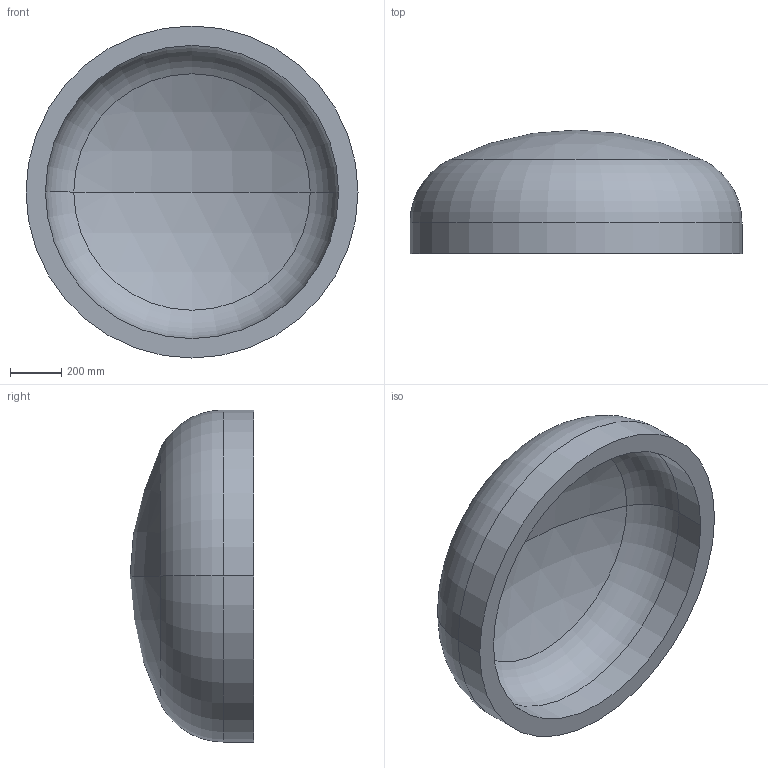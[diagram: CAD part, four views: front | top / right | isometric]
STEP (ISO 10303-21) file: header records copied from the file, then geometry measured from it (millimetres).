
FILE_DESCRIPTION (( 'STEP AP203' ), '1' );
FILE_NAME ('DIN 28013 Korbbogenform_-_Boden DIN 28013 - 1300 x 120 - I - s=76.step', '2016-07-01T09:58:27', ( '' ), ( '' ), 'SwSTEP 2.0', 'SolidWorks 2013', '' );
FILE_SCHEMA (( 'CONFIG_CONTROL_DESIGN' ));
Length unit declared in the file: millimetre
Products named in the file (1): DIN 28013 Korbbogenform_-_Boden DIN 28013 - 1300 x 120 - I - s=76
Bounding box: 1300 x 483.85 x 1300 mm (x, y, z)
Volume: 164710150.8 mm3; surface area: 4638817.4 mm2
Topology: 1 solids, 1 shells, 13 faces, 24 edges, 14 vertices
Faces by surface type: torus 4, cylinder 4, sphere 4, plane 1
Entity records: 407 total; most frequent: DIRECTION 72, CARTESIAN_POINT 52, ORIENTED_EDGE 48, AXIS2_PLACEMENT_3D 34, EDGE_CURVE 24, CIRCLE 20, EDGE_LOOP 14, VERTEX_POINT 14
